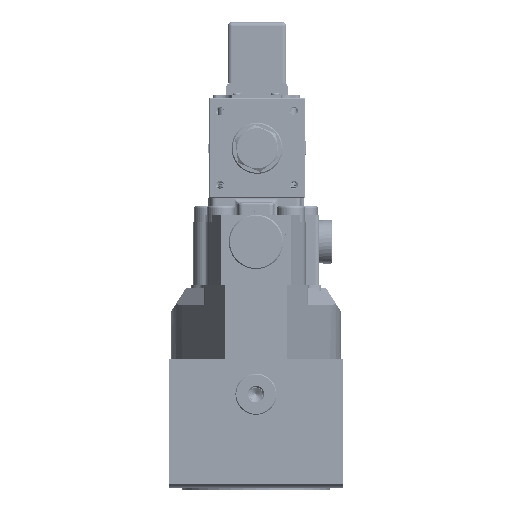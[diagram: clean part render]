
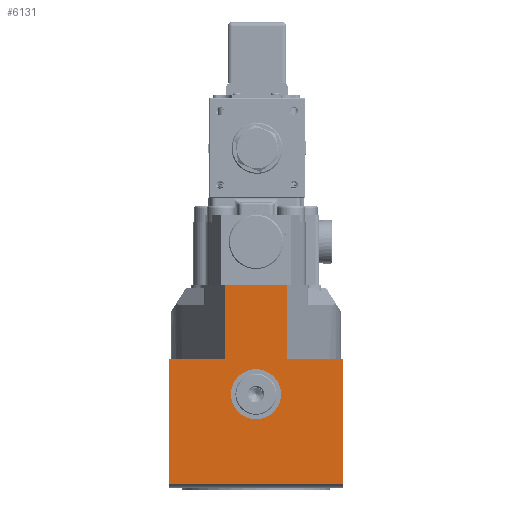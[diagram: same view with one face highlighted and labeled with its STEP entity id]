
A CAD part, left-side view. The second image highlights one B-rep face of the part: STEP entity #6131.
In plain terms, the highlighted planar face has unit normal (-1, 0, 0).
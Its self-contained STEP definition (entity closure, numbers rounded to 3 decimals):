
#3594=FACE_BOUND('',#10225,.T.);
#3595=FACE_BOUND('',#10226,.T.);
#4626=PLANE('',#30926);
#6131=ADVANCED_FACE('',(#3594,#3595),#4626,.T.);
#10225=EDGE_LOOP('',(#18705));
#10226=EDGE_LOOP('',(#18706,#18707,#18708,#18709,#18710,#18711,#18712,#18713));
#11996=LINE('',#132375,#13367);
#12019=LINE('',#132436,#13390);
#12020=LINE('',#132439,#13391);
#12021=LINE('',#132440,#13392);
#12022=LINE('',#132442,#13393);
#12023=LINE('',#132444,#13394);
#12024=LINE('',#132446,#13395);
#12025=LINE('',#132448,#13396);
#13367=VECTOR('',#36946,1.);
#13390=VECTOR('',#36991,1.);
#13391=VECTOR('',#36992,1.);
#13392=VECTOR('',#36993,1.);
#13393=VECTOR('',#36994,1.);
#13394=VECTOR('',#36995,1.);
#13395=VECTOR('',#36996,1.);
#13396=VECTOR('',#36997,1.);
#18705=ORIENTED_EDGE('',*,*,#26250,.F.);
#18706=ORIENTED_EDGE('',*,*,#26251,.F.);
#18707=ORIENTED_EDGE('',*,*,#26252,.T.);
#18708=ORIENTED_EDGE('',*,*,#26221,.F.);
#18709=ORIENTED_EDGE('',*,*,#26253,.T.);
#18710=ORIENTED_EDGE('',*,*,#26254,.F.);
#18711=ORIENTED_EDGE('',*,*,#26255,.F.);
#18712=ORIENTED_EDGE('',*,*,#26256,.T.);
#18713=ORIENTED_EDGE('',*,*,#26257,.F.);
#22900=VERTEX_POINT('',#132376);
#22901=VERTEX_POINT('',#132377);
#22926=VERTEX_POINT('',#132435);
#22927=VERTEX_POINT('',#132437);
#22928=VERTEX_POINT('',#132438);
#22929=VERTEX_POINT('',#132441);
#22930=VERTEX_POINT('',#132443);
#22931=VERTEX_POINT('',#132445);
#22932=VERTEX_POINT('',#132447);
#26221=EDGE_CURVE('',#22900,#22901,#11996,.T.);
#26250=EDGE_CURVE('',#22926,#22926,#28414,.T.);
#26251=EDGE_CURVE('',#22927,#22928,#12019,.T.);
#26252=EDGE_CURVE('',#22927,#22901,#12020,.T.);
#26253=EDGE_CURVE('',#22900,#22929,#12021,.T.);
#26254=EDGE_CURVE('',#22930,#22929,#12022,.T.);
#26255=EDGE_CURVE('',#22931,#22930,#12023,.T.);
#26256=EDGE_CURVE('',#22931,#22932,#12024,.T.);
#26257=EDGE_CURVE('',#22928,#22932,#12025,.T.);
#28414=CIRCLE('',#30925,11.5);
#30925=AXIS2_PLACEMENT_3D('',#132434,#36989,#36990);
#30926=AXIS2_PLACEMENT_3D('',#132449,#36998,#36999);
#36946=DIRECTION('',(0.,1.,0.));
#36989=DIRECTION('',(-1.,0.,0.));
#36990=DIRECTION('',(0.,0.,-1.));
#36991=DIRECTION('',(0.,-1.,0.));
#36992=DIRECTION('',(0.,0.,-1.));
#36993=DIRECTION('',(0.,0.,1.));
#36994=DIRECTION('',(0.,-1.,0.));
#36995=DIRECTION('',(0.,0.,-1.));
#36996=DIRECTION('',(0.,1.,0.));
#36997=DIRECTION('',(0.,0.,1.));
#36998=DIRECTION('',(-1.,0.,0.));
#36999=DIRECTION('',(0.,0.,-1.));
#132375=CARTESIAN_POINT('',(-745.26,136.121,-1.245));
#132376=CARTESIAN_POINT('',(-745.26,-96.932,-1.245));
#132377=CARTESIAN_POINT('',(-745.26,-16.932,-1.245));
#132434=CARTESIAN_POINT('',(-745.26,-56.932,40.));
#132435=CARTESIAN_POINT('',(-745.26,-56.932,28.5));
#132436=CARTESIAN_POINT('',(-745.26,-17.932,56.));
#132437=CARTESIAN_POINT('',(-745.26,-16.932,56.));
#132438=CARTESIAN_POINT('',(-745.26,-42.653,56.));
#132439=CARTESIAN_POINT('',(-745.26,-16.932,47.5));
#132440=CARTESIAN_POINT('',(-745.26,-96.932,47.5));
#132441=CARTESIAN_POINT('',(-745.26,-96.932,56.));
#132442=CARTESIAN_POINT('',(-745.26,-98.332,56.));
#132443=CARTESIAN_POINT('',(-745.26,-71.211,56.));
#132444=CARTESIAN_POINT('',(-745.26,-71.211,56.));
#132445=CARTESIAN_POINT('',(-745.26,-71.211,90.));
#132446=CARTESIAN_POINT('',(-745.26,-98.332,90.));
#132447=CARTESIAN_POINT('',(-745.26,-42.653,90.));
#132448=CARTESIAN_POINT('',(-745.26,-42.653,56.));
#132449=CARTESIAN_POINT('',(-745.26,-56.932,47.5));
